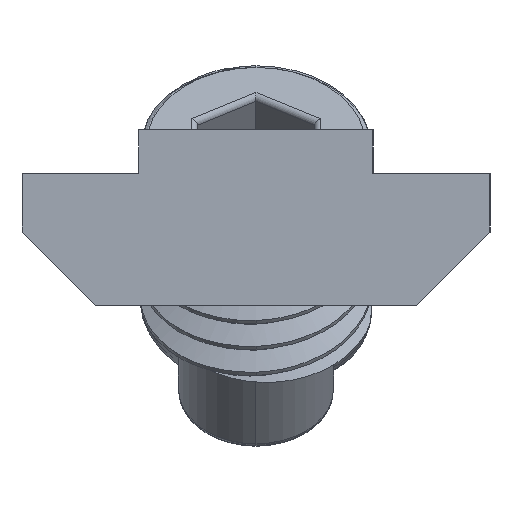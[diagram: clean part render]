
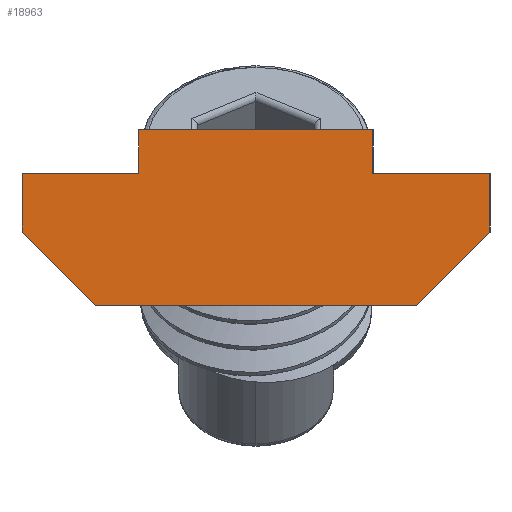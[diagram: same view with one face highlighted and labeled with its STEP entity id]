
A CAD part, left-side view. The second image highlights one B-rep face of the part: STEP entity #18963.
In plain terms, the highlighted planar face has unit normal (-1, 0, 0) as drawn and (0, 0, 1) by its records, which use the part's own axes.
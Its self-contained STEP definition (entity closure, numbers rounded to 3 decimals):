
#91 = LINE ( 'NONE', #17853, #7016 ) ;
#945 = CARTESIAN_POINT ( 'NONE',  ( 0., 6., 80. ) ) ;
#1208 = VERTEX_POINT ( 'NONE', #38373 ) ;
#1294 = LINE ( 'NONE', #9411, #33415 ) ;
#1319 = LINE ( 'NONE', #47617, #13266 ) ;
#1328 = VERTEX_POINT ( 'NONE', #42927 ) ;
#1764 = CARTESIAN_POINT ( 'NONE',  ( -4., 4.5, 80. ) ) ;
#3430 = DIRECTION ( 'NONE',  ( 0., -1., 0. ) ) ;
#3613 = ORIENTED_EDGE ( 'NONE', *, *, #42055, .T. ) ;
#3635 = ORIENTED_EDGE ( 'NONE', *, *, #45660, .F. ) ;
#3764 = DIRECTION ( 'NONE',  ( 0., 0., 1. ) ) ;
#4118 = ORIENTED_EDGE ( 'NONE', *, *, #27338, .T. ) ;
#4549 = CARTESIAN_POINT ( 'NONE',  ( -5.5, 0., 80. ) ) ;
#5070 = VERTEX_POINT ( 'NONE', #49043 ) ;
#5211 = LINE ( 'NONE', #4549, #26603 ) ;
#5525 = CARTESIAN_POINT ( 'NONE',  ( 0., 4.5, 80. ) ) ;
#5893 = DIRECTION ( 'NONE',  ( 0., 1., 0. ) ) ;
#7016 = VECTOR ( 'NONE', #5893, 1000. ) ;
#7279 = EDGE_CURVE ( 'NONE', #13424, #32844, #5211, .T. ) ;
#8058 = EDGE_CURVE ( 'NONE', #48143, #5070, #33532, .T. ) ;
#8539 = CARTESIAN_POINT ( 'NONE',  ( 4., 6., 80. ) ) ;
#9173 = CARTESIAN_POINT ( 'NONE',  ( -5.5, 0., 80. ) ) ;
#9411 = CARTESIAN_POINT ( 'NONE',  ( -8., 2.5, 80. ) ) ;
#9586 = DIRECTION ( 'NONE',  ( -1., 0., 0. ) ) ;
#10258 = CARTESIAN_POINT ( 'NONE',  ( 0., 4.5, 80. ) ) ;
#10725 = LINE ( 'NONE', #5525, #30874 ) ;
#10812 = VERTEX_POINT ( 'NONE', #17562 ) ;
#11357 = LINE ( 'NONE', #10258, #40984 ) ;
#11403 = FACE_OUTER_BOUND ( 'NONE', #13465, .T. ) ;
#12629 = DIRECTION ( 'NONE',  ( -1., 0., 0. ) ) ;
#13266 = VECTOR ( 'NONE', #3430, 1000. ) ;
#13424 = VERTEX_POINT ( 'NONE', #22576 ) ;
#13465 = EDGE_LOOP ( 'NONE', ( #3613, #51969, #21983, #35745, #3635, #46075, #30311, #22683, #4118, #15639 ) ) ;
#14602 = VECTOR ( 'NONE', #16218, 1000. ) ;
#15639 = ORIENTED_EDGE ( 'NONE', *, *, #27757, .T. ) ;
#16218 = DIRECTION ( 'NONE',  ( 0., 1., 0. ) ) ;
#16767 = EDGE_CURVE ( 'NONE', #1208, #1328, #91, .T. ) ;
#17562 = CARTESIAN_POINT ( 'NONE',  ( -8., 2.5, 80. ) ) ;
#17853 = CARTESIAN_POINT ( 'NONE',  ( 8., 0., 80. ) ) ;
#18042 = DIRECTION ( 'NONE',  ( 0., 1., 0. ) ) ;
#18273 = VECTOR ( 'NONE', #18042, 1000. ) ;
#18963 = ADVANCED_FACE ( 'NONE', ( #11403 ), #47772, .T. ) ;
#20810 = LINE ( 'NONE', #46219, #18273 ) ;
#20835 = LINE ( 'NONE', #42098, #42248 ) ;
#21983 = ORIENTED_EDGE ( 'NONE', *, *, #46067, .T. ) ;
#22011 = EDGE_CURVE ( 'NONE', #41268, #10812, #1319, .T. ) ;
#22576 = CARTESIAN_POINT ( 'NONE',  ( 5.5, 0., 80. ) ) ;
#22683 = ORIENTED_EDGE ( 'NONE', *, *, #16767, .T. ) ;
#23366 = LINE ( 'NONE', #945, #43492 ) ;
#26438 = DIRECTION ( 'NONE',  ( -1., 0., 0. ) ) ;
#26603 = VECTOR ( 'NONE', #12629, 1000. ) ;
#27338 = EDGE_CURVE ( 'NONE', #1328, #45521, #11357, .T. ) ;
#27757 = EDGE_CURVE ( 'NONE', #45521, #35568, #20810, .T. ) ;
#29058 = CARTESIAN_POINT ( 'NONE',  ( 4., 4.5, 80. ) ) ;
#29117 = DIRECTION ( 'NONE',  ( -1., 0., 0. ) ) ;
#30311 = ORIENTED_EDGE ( 'NONE', *, *, #42455, .T. ) ;
#30874 = VECTOR ( 'NONE', #9586, 1000. ) ;
#31908 = DIRECTION ( 'NONE',  ( 1., 0., 0. ) ) ;
#32844 = VERTEX_POINT ( 'NONE', #9173 ) ;
#33415 = VECTOR ( 'NONE', #37570, 1000. ) ;
#33532 = LINE ( 'NONE', #40386, #14602 ) ;
#35568 = VERTEX_POINT ( 'NONE', #8539 ) ;
#35745 = ORIENTED_EDGE ( 'NONE', *, *, #22011, .T. ) ;
#37570 = DIRECTION ( 'NONE',  ( -0.707, 0.707, 0. ) ) ;
#38373 = CARTESIAN_POINT ( 'NONE',  ( 8., 2.5, 80. ) ) ;
#40386 = CARTESIAN_POINT ( 'NONE',  ( -4., 4.5, 80. ) ) ;
#40984 = VECTOR ( 'NONE', #26438, 1000. ) ;
#41268 = VERTEX_POINT ( 'NONE', #50866 ) ;
#42055 = EDGE_CURVE ( 'NONE', #35568, #5070, #23366, .T. ) ;
#42098 = CARTESIAN_POINT ( 'NONE',  ( 5.5, 0., 80. ) ) ;
#42248 = VECTOR ( 'NONE', #46147, 1000. ) ;
#42455 = EDGE_CURVE ( 'NONE', #13424, #1208, #20835, .T. ) ;
#42927 = CARTESIAN_POINT ( 'NONE',  ( 8., 4.5, 80. ) ) ;
#43492 = VECTOR ( 'NONE', #29117, 1000. ) ;
#45521 = VERTEX_POINT ( 'NONE', #29058 ) ;
#45660 = EDGE_CURVE ( 'NONE', #32844, #10812, #1294, .T. ) ;
#46067 = EDGE_CURVE ( 'NONE', #48143, #41268, #10725, .T. ) ;
#46075 = ORIENTED_EDGE ( 'NONE', *, *, #7279, .F. ) ;
#46133 = AXIS2_PLACEMENT_3D ( 'NONE', #52011, #3764, #31908 ) ;
#46147 = DIRECTION ( 'NONE',  ( 0.707, 0.707, 0. ) ) ;
#46219 = CARTESIAN_POINT ( 'NONE',  ( 4., 4.5, 80. ) ) ;
#47617 = CARTESIAN_POINT ( 'NONE',  ( -8., 0., 80. ) ) ;
#47772 = PLANE ( 'NONE',  #46133 ) ;
#48143 = VERTEX_POINT ( 'NONE', #1764 ) ;
#49043 = CARTESIAN_POINT ( 'NONE',  ( -4., 6., 80. ) ) ;
#50866 = CARTESIAN_POINT ( 'NONE',  ( -8., 4.5, 80. ) ) ;
#51969 = ORIENTED_EDGE ( 'NONE', *, *, #8058, .F. ) ;
#52011 = CARTESIAN_POINT ( 'NONE',  ( 0., 0., 80. ) ) ;
